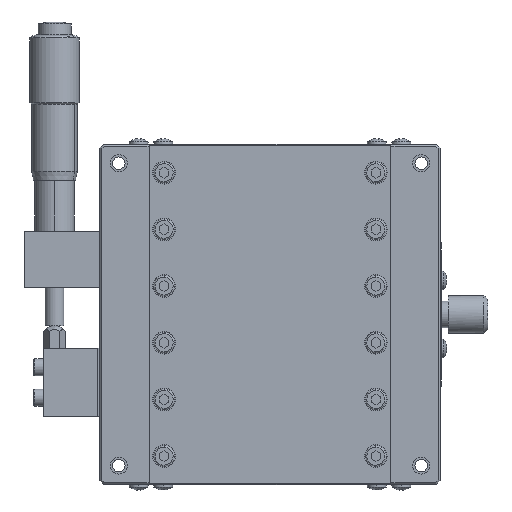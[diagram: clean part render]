
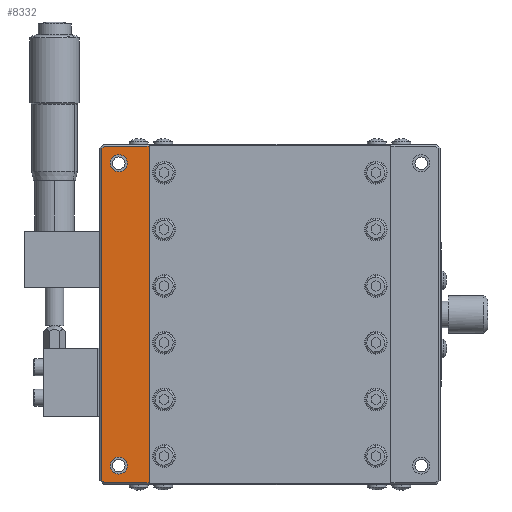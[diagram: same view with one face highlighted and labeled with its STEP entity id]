
A CAD part, front view. The second image highlights one B-rep face of the part: STEP entity #8332.
In plain terms, the highlighted planar face has unit normal (0, -1, 0).
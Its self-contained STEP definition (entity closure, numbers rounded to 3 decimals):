
#301 = CARTESIAN_POINT ( 'NONE',  ( -92.05, 4.25, -19.667 ) ) ;
#302 = DIRECTION ( 'NONE',  ( 0., -1., 0. ) ) ;
#303 = DIRECTION ( 'NONE',  ( 0., 0., 1. ) ) ;
#313 = CARTESIAN_POINT ( 'NONE',  ( -92.05, 4.25, 60.333 ) ) ;
#314 = DIRECTION ( 'NONE',  ( 0., -1., 0. ) ) ;
#315 = DIRECTION ( 'NONE',  ( 0., 0., 1. ) ) ;
#2853 = DIRECTION ( 'NONE',  ( 0., 1., 0. ) ) ;
#2860 = FACE_OUTER_BOUND ( 'NONE', #26274, .T. ) ;
#2863 = CARTESIAN_POINT ( 'NONE',  ( -97.05, 4.25, 65.333 ) ) ;
#2864 = FACE_BOUND ( 'NONE', #26276, .T. ) ;
#2866 = FACE_BOUND ( 'NONE', #26263, .T. ) ;
#2867 = PLANE ( 'NONE',  #18461 ) ;
#2869 = DIRECTION ( 'NONE',  ( 0., 0., 1. ) ) ;
#7656 = CIRCLE ( 'NONE', #7658, 2.25 ) ;
#7658 = AXIS2_PLACEMENT_3D ( 'NONE', #301, #302, #303 ) ;
#7662 = CIRCLE ( 'NONE', #7664, 2.25 ) ;
#7664 = AXIS2_PLACEMENT_3D ( 'NONE', #313, #314, #315 ) ;
#8256 = EDGE_CURVE ( 'NONE', #16358, #16364, #18366, .T. ) ;
#8257 = EDGE_CURVE ( 'NONE', #12933, #12959, #17936, .T. ) ;
#8258 = EDGE_CURVE ( 'NONE', #12943, #12933, #17935, .T. ) ;
#8259 = EDGE_CURVE ( 'NONE', #12947, #12943, #17928, .T. ) ;
#8260 = EDGE_CURVE ( 'NONE', #16365, #16361, #18372, .T. ) ;
#8332 = ADVANCED_FACE ( 'NONE', ( #2864, #2860, #2866 ), #2867, .F. ) ;
#10865 = EDGE_CURVE ( 'NONE', #12959, #12952, #19819, .T. ) ;
#10866 = EDGE_CURVE ( 'NONE', #12949, #12952, #19822, .T. ) ;
#10868 = EDGE_CURVE ( 'NONE', #12947, #12949, #19828, .T. ) ;
#12269 = VECTOR ( 'NONE', #19821, 1000. ) ;
#12270 = VECTOR ( 'NONE', #19825, 1000. ) ;
#12272 = VECTOR ( 'NONE', #19830, 1000. ) ;
#12933 = VERTEX_POINT ( 'NONE', #20065 ) ;
#12943 = VERTEX_POINT ( 'NONE', #20076 ) ;
#12947 = VERTEX_POINT ( 'NONE', #20080 ) ;
#12949 = VERTEX_POINT ( 'NONE', #20082 ) ;
#12952 = VERTEX_POINT ( 'NONE', #20085 ) ;
#12959 = VERTEX_POINT ( 'NONE', #20092 ) ;
#16358 = VERTEX_POINT ( 'NONE', #19549 ) ;
#16361 = VERTEX_POINT ( 'NONE', #19552 ) ;
#16364 = VERTEX_POINT ( 'NONE', #19555 ) ;
#16365 = VERTEX_POINT ( 'NONE', #19556 ) ;
#17922 = CARTESIAN_POINT ( 'NONE',  ( -96.55, 4.25, 64.126 ) ) ;
#17928 = LINE ( 'NONE', #17943, #18371 ) ;
#17935 = LINE ( 'NONE', #17941, #18369 ) ;
#17936 = LINE ( 'NONE', #17922, #18367 ) ;
#17937 = CARTESIAN_POINT ( 'NONE',  ( -92.05, 4.25, 60.333 ) ) ;
#17938 = DIRECTION ( 'NONE',  ( 0., -1., 0. ) ) ;
#17939 = DIRECTION ( 'NONE',  ( 0., 0., 1. ) ) ;
#17940 = DIRECTION ( 'NONE',  ( 0.707, 0., 0.707 ) ) ;
#17941 = CARTESIAN_POINT ( 'NONE',  ( -96.55, 4.25, 65.333 ) ) ;
#17942 = DIRECTION ( 'NONE',  ( 0., 0., 1. ) ) ;
#17943 = CARTESIAN_POINT ( 'NONE',  ( -95.843, 4.25, -24.167 ) ) ;
#17945 = DIRECTION ( 'NONE',  ( -0.707, 0., 0.707 ) ) ;
#17948 = CARTESIAN_POINT ( 'NONE',  ( -92.05, 4.25, -19.667 ) ) ;
#17949 = DIRECTION ( 'NONE',  ( 0., -1., 0. ) ) ;
#17950 = DIRECTION ( 'NONE',  ( 0., 0., 1. ) ) ;
#18120 = EDGE_CURVE ( 'NONE', #16361, #16365, #7656, .T. ) ;
#18124 = EDGE_CURVE ( 'NONE', #16364, #16358, #7662, .T. ) ;
#18366 = CIRCLE ( 'NONE', #18370, 2.25 ) ;
#18367 = VECTOR ( 'NONE', #17940, 1000. ) ;
#18369 = VECTOR ( 'NONE', #17942, 1000. ) ;
#18370 = AXIS2_PLACEMENT_3D ( 'NONE', #17937, #17938, #17939 ) ;
#18371 = VECTOR ( 'NONE', #17945, 1000. ) ;
#18372 = CIRCLE ( 'NONE', #18375, 2.25 ) ;
#18375 = AXIS2_PLACEMENT_3D ( 'NONE', #17948, #17949, #17950 ) ;
#18461 = AXIS2_PLACEMENT_3D ( 'NONE', #2863, #2853, #2869 ) ;
#19549 = CARTESIAN_POINT ( 'NONE',  ( -92.05, 4.25, 58.083 ) ) ;
#19552 = CARTESIAN_POINT ( 'NONE',  ( -92.05, 4.25, -17.417 ) ) ;
#19555 = CARTESIAN_POINT ( 'NONE',  ( -92.05, 4.25, 62.583 ) ) ;
#19556 = CARTESIAN_POINT ( 'NONE',  ( -92.05, 4.25, -21.917 ) ) ;
#19819 = LINE ( 'NONE', #19820, #12269 ) ;
#19820 = CARTESIAN_POINT ( 'NONE',  ( -97.05, 4.25, 64.833 ) ) ;
#19821 = DIRECTION ( 'NONE',  ( 1., 0., 0. ) ) ;
#19822 = LINE ( 'NONE', #19824, #12270 ) ;
#19824 = CARTESIAN_POINT ( 'NONE',  ( -84.05, 4.25, 65.333 ) ) ;
#19825 = DIRECTION ( 'NONE',  ( 0., 0., 1. ) ) ;
#19828 = LINE ( 'NONE', #19829, #12272 ) ;
#19829 = CARTESIAN_POINT ( 'NONE',  ( -97.05, 4.25, -24.167 ) ) ;
#19830 = DIRECTION ( 'NONE',  ( 1., 0., 0. ) ) ;
#20065 = CARTESIAN_POINT ( 'NONE',  ( -96.55, 4.25, 64.126 ) ) ;
#20076 = CARTESIAN_POINT ( 'NONE',  ( -96.55, 4.25, -23.46 ) ) ;
#20080 = CARTESIAN_POINT ( 'NONE',  ( -95.843, 4.25, -24.167 ) ) ;
#20082 = CARTESIAN_POINT ( 'NONE',  ( -84.05, 4.25, -24.167 ) ) ;
#20085 = CARTESIAN_POINT ( 'NONE',  ( -84.05, 4.25, 64.833 ) ) ;
#20092 = CARTESIAN_POINT ( 'NONE',  ( -95.843, 4.25, 64.833 ) ) ;
#23247 = ORIENTED_EDGE ( 'NONE', *, *, #18124, .F. ) ;
#23248 = ORIENTED_EDGE ( 'NONE', *, *, #8256, .F. ) ;
#23249 = ORIENTED_EDGE ( 'NONE', *, *, #10865, .F. ) ;
#23250 = ORIENTED_EDGE ( 'NONE', *, *, #8257, .F. ) ;
#23251 = ORIENTED_EDGE ( 'NONE', *, *, #8258, .F. ) ;
#23252 = ORIENTED_EDGE ( 'NONE', *, *, #8259, .F. ) ;
#23253 = ORIENTED_EDGE ( 'NONE', *, *, #10868, .T. ) ;
#23254 = ORIENTED_EDGE ( 'NONE', *, *, #10866, .T. ) ;
#23255 = ORIENTED_EDGE ( 'NONE', *, *, #18120, .F. ) ;
#23256 = ORIENTED_EDGE ( 'NONE', *, *, #8260, .F. ) ;
#26263 = EDGE_LOOP ( 'NONE', ( #23255, #23256 ) ) ;
#26274 = EDGE_LOOP ( 'NONE', ( #23249, #23250, #23251, #23252, #23253, #23254 ) ) ;
#26276 = EDGE_LOOP ( 'NONE', ( #23247, #23248 ) ) ;
